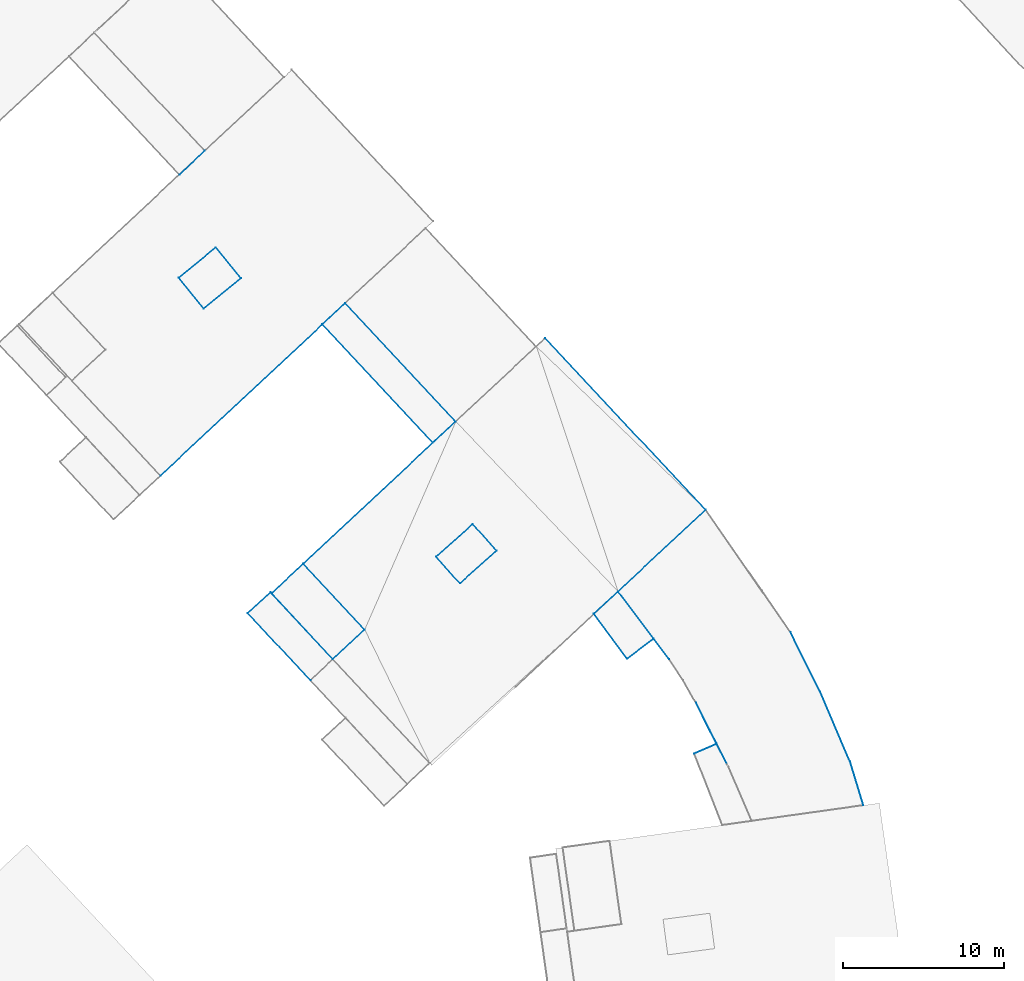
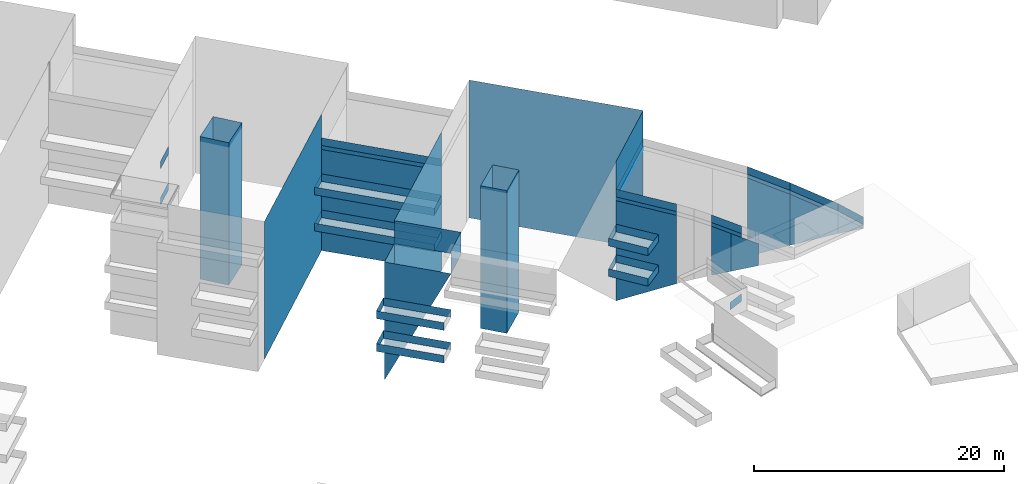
# Not in any storey, part 19 of 136: 93 walls.
"""IFC4 building model written with IfcOpenShell, lengths in metres."""

import ifcopenshell
import ifcopenshell.guid

model = None  # the IFC model being written
_history = None  # IfcOwnerHistory: only IFC2X3 demands one
_inside = {}  # id of a spatial element -> (the spatial element, [elements in it])
_under = {}  # id of a project, library or spatial element -> (it, [spatial elements below it])
_declared = {}  # id of a project -> (the project, [libraries it declares])
_typed = {}  # id of a type object -> (the type object, [elements of that type])
_made_of = {}  # id of a material, layer set ... -> (it, [elements and type objects made of it])


def new_model(schema):
    """Start an empty IFC model of exactly this schema.

    Asked for "IFC4X3", IfcOpenShell would pick the latest addendum, in which some entities
    have other attributes; the version numbers below select the first issue.
    IFC2X3 requires an IfcOwnerHistory on every rooted entity: one is made here for all.
    """
    global model, _history
    if schema == "IFC4X3":
        model = ifcopenshell.file(schema_version=(4, 3, 0, 0))
    else:
        model = ifcopenshell.file(schema=schema)
    _inside.clear()
    _under.clear()
    _declared.clear()
    _typed.clear()
    _made_of.clear()
    _history = None
    if model.schema == "IFC2X3":
        org = make("IfcOrganization", Name="unknown")
        user = make(
            "IfcPersonAndOrganization",
            ThePerson=make("IfcPerson", FamilyName="unknown"),
            TheOrganization=org,
        )
        app = make(
            "IfcApplication",
            ApplicationDeveloper=org,
            Version="unknown",
            ApplicationFullName="unknown",
            ApplicationIdentifier="unknown",
        )
        _history = make(
            "IfcOwnerHistory",
            OwningUser=user,
            OwningApplication=app,
            ChangeAction="ADDED",
            CreationDate=0,
        )
    return model


def make(cls, **values):
    """One entity of the class cls with the attributes given. An attribute that is None is left unset."""
    return model.create_entity(
        cls, **{name: value for name, value in values.items() if value is not None}
    )


def entity(cls, *values):
    """Any entity or typed value of the class cls, its attributes in the order of the schema. None: left unset."""
    e = model.create_entity(cls)
    for i, value in enumerate(values):
        if value is not None:
            e[i] = value
    return e


def rooted(cls, **values):
    """An entity with a GlobalId (a new one), such as an element, a storey or a relation."""
    return make(cls, GlobalId=ifcopenshell.guid.new(), OwnerHistory=_history, **values)


def si_unit(unit_type, name, prefix=None):
    """IfcSIUnit, for example si_unit("LENGTHUNIT", "METRE", prefix="MILLI")."""
    return make("IfcSIUnit", UnitType=unit_type, Prefix=prefix, Name=name)


def converted_unit(unit_type, name, factor, base, dimensions=None, offset=None):
    """IfcConversionBasedUnit, such as the inch: factor (a typed value) times the base unit."""
    return make(
        "IfcConversionBasedUnit"
        if offset is None
        else "IfcConversionBasedUnitWithOffset",
        ConversionOffset=offset,
        Dimensions=None
        if dimensions is None
        else entity("IfcDimensionalExponents", *dimensions),
        UnitType=unit_type,
        Name=name,
        ConversionFactor=make(
            "IfcMeasureWithUnit", ValueComponent=factor, UnitComponent=base
        ),
    )


def assignment(units):
    """IfcUnitAssignment: the units of a project."""
    return None if units is None else make("IfcUnitAssignment", Units=units)


def point(xyz):
    """IfcCartesianPoint."""
    return None if xyz is None else make("IfcCartesianPoint", Coordinates=xyz)


def direction(xyz):
    """IfcDirection."""
    return None if xyz is None else make("IfcDirection", DirectionRatios=xyz)


def frame(location, z_axis=None, x_axis=None):
    """IfcAxis2Placement3D, a coordinate frame: its origin and axes. An axis left out is left unset."""
    return make(
        "IfcAxis2Placement3D",
        Location=point(location),
        Axis=direction(z_axis),
        RefDirection=direction(x_axis),
    )


def origin():
    """The frame at (0, 0, 0) with its axes left unset."""
    return frame((0.0, 0.0, 0.0))


def place(relative_to, where):
    """IfcLocalPlacement: puts the frame where relative to a parent placement (None: the world)."""
    return make(
        "IfcLocalPlacement", PlacementRelTo=relative_to, RelativePlacement=where
    )


def context(
    kind, dimensions, precision=None, world=None, true_north=None, identifier=None
):
    """IfcGeometricRepresentationContext, for example the 3D "Model" context."""
    return make(
        "IfcGeometricRepresentationContext",
        ContextIdentifier=identifier,
        ContextType=kind,
        CoordinateSpaceDimension=dimensions,
        Precision=precision,
        WorldCoordinateSystem=world,
        TrueNorth=true_north,
    )


def subcontext(parent, identifier, kind, view, scale=None):
    """IfcGeometricRepresentationSubContext, for example "Body" below "Model"."""
    return make(
        "IfcGeometricRepresentationSubContext",
        ContextIdentifier=identifier,
        ContextType=kind,
        ParentContext=parent,
        TargetScale=scale,
        TargetView=view,
    )


def project(units=None, contexts=None):
    """IfcProject with its units and contexts."""
    return rooted(
        "IfcProject",
        Name="project",
        RepresentationContexts=contexts,
        UnitsInContext=assignment(units),
    )


def spatial(cls, under=None, at=None, **own):
    """A site, building, storey or space (cls), placed at a placement, below another one or the project."""
    s = rooted(cls, ObjectPlacement=at, **own)
    if under is not None:
        _under.setdefault(under.id(), (under, []))[1].append(s)
    return s


def faces_of(points, faces, orient=None, outer=None):
    """IfcFace entities. A face is a list of loops; a loop is a list of indices into points, from 0.

    orient and outer hold one flag for each loop. By default every Orientation is true, the
    first loop of a face is its IfcFaceOuterBound and the others are IfcFaceBound.
    """
    made = []
    for i, loops in enumerate(faces):
        bounds = []
        for j, loop in enumerate(loops):
            is_outer = j == 0 if outer is None else outer[i][j]
            bounds.append(
                make(
                    "IfcFaceOuterBound" if is_outer else "IfcFaceBound",
                    Bound=make("IfcPolyLoop", Polygon=[points[k] for k in loop]),
                    Orientation=True if orient is None else orient[i][j],
                )
            )
        made.append(make("IfcFace", Bounds=bounds))
    return made


def face_set(faces, orient=None, outer=None):
    """The faces of one IfcConnectedFaceSet. surface_model builds it on its shared points."""
    return ("IfcConnectedFaceSet", faces, orient, outer)


def surface_model(cls, points, shells):
    """IfcFaceBasedSurfaceModel or IfcShellBasedSurfaceModel (cls): surfaces that need not close."""
    shared = [point(p) for p in points]
    made = [make(c, CfsFaces=faces_of(shared, fs, o, b)) for c, fs, o, b in shells]
    if cls == "IfcFaceBasedSurfaceModel":
        return make(cls, FbsmFaces=made)
    return make(cls, SbsmBoundary=made)


def shape(context_of_items, identifier, shape_type, items):
    """IfcShapeRepresentation: the items that make up one representation, for example the "Body"."""
    return make(
        "IfcShapeRepresentation",
        ContextOfItems=context_of_items,
        RepresentationIdentifier=identifier,
        RepresentationType=shape_type,
        Items=items,
    )


def made_of(thing, what):
    """Note that an element or type object is made of a material, layer set ...; save() writes the relation."""
    if what is not None:
        _made_of.setdefault(what.id(), (what, []))[1].append(thing)
    return thing


def element(
    cls,
    number,
    at=None,
    inside=None,
    cuts=None,
    type_object=None,
    material=None,
    context=None,
    identifier="Body",
    shape_type=None,
    held_by="IfcProductDefinitionShape",
    body=None,
    shapes=None,
    **own,
):
    """One element of the class cls, such as IfcWall. Its Tag is "e" and its number.

    at: its placement. inside: the storey or other place that contains it. cuts: it is an
    opening in that element (IfcRelVoidsElement). A single representation is given by context,
    identifier, shape_type and body (its items); several are given by shapes. held_by: the class
    of the entity that holds the representations. save() writes the other relations.
    """
    e = rooted(cls, Tag="e%d" % number, ObjectPlacement=at, **own)
    if body is not None:
        shapes = [shape(context, identifier, shape_type, body)]
    if shapes is not None:
        e.Representation = make(held_by, Representations=shapes)
    if inside is not None:
        _inside.setdefault(inside.id(), (inside, []))[1].append(e)
    if cuts is not None:
        rooted(
            "IfcRelVoidsElement", RelatingBuildingElement=cuts, RelatedOpeningElement=e
        )
    if type_object is not None:
        _typed.setdefault(type_object.id(), (type_object, []))[1].append(e)
    return made_of(e, material)


def aggregate(whole, parts):
    """IfcRelAggregates: a whole, such as a stair, and the parts it consists of."""
    return rooted("IfcRelAggregates", RelatingObject=whole, RelatedObjects=parts)


def save(model, path):
    """Write the relations noted so far, then the file.

    IfcRelAggregates (storeys below a building ...), IfcRelContainedInSpatialStructure (elements
    in a storey), IfcRelDefinesByType, IfcRelAssociatesMaterial and IfcRelDeclares: one each for
    every whole, place, type object, material and project.
    """
    for whole, parts in _under.values():
        aggregate(whole, parts)
    for where, things in _inside.values():
        rooted(
            "IfcRelContainedInSpatialStructure",
            RelatedElements=things,
            RelatingStructure=where,
        )
    for kind, things in _typed.values():
        rooted("IfcRelDefinesByType", RelatedObjects=things, RelatingType=kind)
    for what, things in _made_of.values():
        rooted("IfcRelAssociatesMaterial", RelatedObjects=things, RelatingMaterial=what)
    for by, libraries in _declared.values():
        rooted("IfcRelDeclares", RelatingContext=by, RelatedDefinitions=libraries)
    model.write(path)


model = new_model("IFC4")

# Units and contexts
model_context = context("Model", 3, precision=1e-05, world=origin())
body_context = subcontext(model_context, "Body", "Model", "MODEL_VIEW")
ifc_project = project(units=[converted_unit("PLANEANGLEUNIT", "DEGREE", entity("IfcRatioMeasure", 0.0174532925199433), si_unit("PLANEANGLEUNIT", "RADIAN"), dimensions=[0, 0, 0, 0, 0, 0, 0]), si_unit("AREAUNIT", "SQUARE_METRE"), si_unit("LENGTHUNIT", "METRE")], contexts=[model_context])

# Site, building
site_placement = place(None, origin())
site = spatial("IfcSite", under=ifc_project, at=site_placement, Name="_site")
building_1_placement = place(site_placement, origin())
building_1 = spatial("IfcBuilding", under=site, at=building_1_placement, Name="_building")

# Walls
wall_1_placement = place(building_1_placement, origin())
element("IfcWall", 1, at=wall_1_placement, inside=building_1, Name="Wall", PredefinedType="NOTDEFINED", context=body_context, shape_type="SurfaceModel", body=[
    surface_model("IfcFaceBasedSurfaceModel", [(138.73, -36.479, 45.37), (140.13, -35.18, 45.37), (140.13, -35.18, 46.12), (138.73, -36.479, 46.12)], [face_set([[[0, 1, 2, 3]]])]),
])
wall_2_placement = place(building_1_placement, origin())
element("IfcWall", 2, at=wall_2_placement, inside=building_1, Name="Wall", PredefinedType="NOTDEFINED", context=body_context, shape_type="SurfaceModel", body=[
    surface_model("IfcFaceBasedSurfaceModel", [(142.61, -40.63, 45.37), (138.73, -36.479, 45.37), (138.73, -36.479, 46.12), (142.61, -40.63, 46.12)], [face_set([[[0, 1, 2, 3]]])]),
])
wall_3_placement = place(building_1_placement, origin())
element("IfcWall", 3, at=wall_3_placement, inside=building_1, Name="Wall", PredefinedType="NOTDEFINED", context=body_context, shape_type="SurfaceModel", body=[
    surface_model("IfcFaceBasedSurfaceModel", [(138.73, -36.479, 45.37), (140.13, -35.18, 45.37), (140.13, -35.18, 46.12), (138.73, -36.479, 46.12)], [face_set([[[0, 1, 2, 3]]])]),
])
wall_4_placement = place(building_1_placement, origin())
element("IfcWall", 4, at=wall_4_placement, inside=building_1, Name="Wall", PredefinedType="NOTDEFINED", context=body_context, shape_type="SurfaceModel", body=[
    surface_model("IfcFaceBasedSurfaceModel", [(142.61, -40.63, 45.37), (138.73, -36.479, 45.37), (138.73, -36.479, 46.12), (142.61, -40.63, 46.12)], [face_set([[[0, 1, 2, 3]]])]),
])
for number, where, name in (
    (5, (0.0, 0.0, 0.0), "Wall"),
    (6, (0.0, 0.0, 0.0), "Wall"),
):
    element("IfcWall", number, at=place(building_1_placement, frame(where)), inside=building_1, Name=name, PredefinedType="NOTDEFINED", context=body_context, shape_type="SurfaceModel", body=[
        surface_model("IfcFaceBasedSurfaceModel", [(150.2, -25.91, 44.99), (143.35, -18.57, 44.99), (143.35, -18.57, 45.74), (150.2, -25.91, 45.74)], [face_set([[[0, 1, 2, 3]]])]),
    ])
wall_5_placement = place(building_1_placement, origin())
element("IfcWall", 7, at=wall_5_placement, inside=building_1, Name="Wall", PredefinedType="NOTDEFINED", context=body_context, shape_type="SurfaceModel", body=[
    surface_model("IfcFaceBasedSurfaceModel", [(151.62, -24.59, 44.99), (150.2, -25.91, 44.99), (150.2, -25.91, 45.74), (151.62, -24.59, 45.74)], [face_set([[[0, 1, 2, 3]]])]),
])
wall_6_placement = place(building_1_placement, origin())
element("IfcWall", 8, at=wall_6_placement, inside=building_1, Name="Wall", PredefinedType="NOTDEFINED", context=body_context, shape_type="SurfaceModel", body=[
    surface_model("IfcFaceBasedSurfaceModel", [(144.77, -17.25, 44.99), (151.62, -24.59, 44.99), (151.62, -24.59, 45.74), (144.77, -17.25, 45.74)], [face_set([[[0, 1, 2, 3]]])]),
])
wall_7_placement = place(building_1_placement, origin())
element("IfcWall", 9, at=wall_7_placement, inside=building_1, Name="Wall", PredefinedType="NOTDEFINED", context=body_context, shape_type="SurfaceModel", body=[
    surface_model("IfcFaceBasedSurfaceModel", [(151.62, -24.59, 48.51), (144.77, -17.25, 48.51), (144.77, -17.25, 38.246), (151.62, -24.59, 38.308)], [face_set([[[0, 1, 2, 3]]])]),
])
wall_8_placement = place(building_1_placement, origin())
element("IfcWall", 10, at=wall_8_placement, inside=building_1, Name="Wall", PredefinedType="NOTDEFINED", context=body_context, shape_type="SurfaceModel", body=[
    surface_model("IfcFaceBasedSurfaceModel", [(164.85, -39.33, 48.41), (161.68, -35.13, 48.41), (161.68, -35.13, 48.04), (164.85, -39.33, 48.04)], [face_set([[[0, 1, 2, 3]]])]),
])
for number, where, name in (
    (11, (0.0, 0.0, 0.0), "Wall"),
    (12, (0.0, 0.0, 0.0), "Wall"),
):
    element("IfcWall", number, at=place(building_1_placement, frame(where)), inside=building_1, Name=name, PredefinedType="NOTDEFINED", context=body_context, shape_type="SurfaceModel", body=[
        surface_model("IfcFaceBasedSurfaceModel", [(151.62, -24.59, 48.51), (144.77, -17.25, 48.51), (144.77, -17.25, 49.26), (151.62, -24.59, 49.26)], [face_set([[[0, 1, 2, 3]]])]),
    ])
for number, where, name in (
    (13, (0.0, 0.0, 0.0), "Wall"),
    (14, (0.0, 0.0, 0.0), "Wall"),
):
    element("IfcWall", number, at=place(building_1_placement, frame(where)), inside=building_1, Name=name, PredefinedType="NOTDEFINED", context=body_context, shape_type="SurfaceModel", body=[
        surface_model("IfcFaceBasedSurfaceModel", [(150.2, -25.91, 41.46), (143.35, -18.57, 41.46), (143.35, -18.57, 42.21), (150.2, -25.91, 42.21)], [face_set([[[0, 1, 2, 3]]])]),
    ])
wall_9_placement = place(building_1_placement, origin())
element("IfcWall", 15, at=wall_9_placement, inside=building_1, Name="Wall", PredefinedType="NOTDEFINED", context=body_context, shape_type="SurfaceModel", body=[
    surface_model("IfcFaceBasedSurfaceModel", [(151.62, -24.59, 41.46), (150.2, -25.91, 41.46), (150.2, -25.91, 42.21), (151.62, -24.59, 42.21)], [face_set([[[0, 1, 2, 3]]])]),
])
wall_10_placement = place(building_1_placement, origin())
element("IfcWall", 16, at=wall_10_placement, inside=building_1, Name="Wall", PredefinedType="NOTDEFINED", context=body_context, shape_type="SurfaceModel", body=[
    surface_model("IfcFaceBasedSurfaceModel", [(144.77, -17.25, 41.46), (151.62, -24.59, 41.46), (151.62, -24.59, 42.21), (144.77, -17.25, 42.21)], [face_set([[[0, 1, 2, 3]]])]),
])
wall_11_placement = place(building_1_placement, origin())
element("IfcWall", 17, at=wall_11_placement, inside=building_1, Name="Wall", PredefinedType="NOTDEFINED", context=body_context, shape_type="SurfaceModel", body=[
    surface_model("IfcFaceBasedSurfaceModel", [(151.62, -24.59, 48.12), (144.77, -17.25, 48.12), (144.77, -17.25, 38.246), (151.62, -24.59, 38.308)], [face_set([[[0, 1, 2, 3]]])]),
])
wall_12_placement = place(building_1_placement, origin())
element("IfcWall", 18, at=wall_12_placement, inside=building_1, Name="Wall", PredefinedType="NOTDEFINED", context=body_context, shape_type="SurfaceModel", body=[
    surface_model("IfcFaceBasedSurfaceModel", [(164.85, -39.33, 48.04), (161.68, -35.13, 48.04), (161.68, -35.13, 38.255), (164.85, -39.33, 41.367)], [face_set([[[0, 1, 2, 3]]])]),
])
wall_13_placement = place(building_1_placement, origin())
element("IfcWall", 19, at=wall_13_placement, inside=building_1, Name="Wall", PredefinedType="NOTDEFINED", context=body_context, shape_type="SurfaceModel", body=[
    surface_model("IfcFaceBasedSurfaceModel", [(167.36, -43.72, 48.04), (166.51, -42.04, 48.04), (166.51, -42.04, 43.247), (167.36, -43.72, 44.361)], [face_set([[[0, 1, 2, 3]]])]),
])
wall_14_placement = place(building_1_placement, origin())
element("IfcWall", 20, at=wall_14_placement, inside=building_1, Name="Wall", PredefinedType="NOTDEFINED", context=body_context, shape_type="SurfaceModel", body=[
    surface_model("IfcFaceBasedSurfaceModel", [(168.54, -46.04, 48.04), (167.36, -43.72, 48.04), (167.36, -43.72, 44.361), (168.54, -46.04, 45.9)], [face_set([[[0, 1, 2, 3]]])]),
])
wall_15_placement = place(building_1_placement, origin())
element("IfcWall", 21, at=wall_15_placement, inside=building_1, Name="Wall", PredefinedType="NOTDEFINED", context=body_context, shape_type="SurfaceModel", body=[
    surface_model("IfcFaceBasedSurfaceModel", [(144.77, -17.25, 51.59), (133.31, -27.95, 51.59), (133.31, -27.95, 38.092), (144.77, -17.25, 38.246)], [face_set([[[0, 1, 2, 3]]])]),
])
wall_16_placement = place(building_1_placement, origin())
element("IfcWall", 22, at=wall_16_placement, inside=building_1, Name="Wall", PredefinedType="NOTDEFINED", context=body_context, shape_type="SurfaceModel", body=[
    surface_model("IfcFaceBasedSurfaceModel", [(140.2, -35.25, 49.64), (142.16, -33.42, 49.64), (142.16, -33.42, 38.14), (140.2, -35.25, 38.113)], [face_set([[[0, 1, 2, 3]]])]),
])
wall_17_placement = place(building_1_placement, origin())
element("IfcWall", 23, at=wall_17_placement, inside=building_1, Name="Wall", PredefinedType="NOTDEFINED", context=body_context, shape_type="SurfaceModel", body=[
    surface_model("IfcFaceBasedSurfaceModel", [(157.17, -19.42, 51.89), (167.11, -30.07, 51.89), (167.11, -30.07, 38.37), (157.17, -19.42, 38.41)], [face_set([[[0, 1, 2, 3]]])]),
])
wall_18_placement = place(building_1_placement, origin())
element("IfcWall", 24, at=wall_18_placement, inside=building_1, Name="Wall", PredefinedType="NOTDEFINED", context=body_context, shape_type="SurfaceModel", body=[
    surface_model("IfcFaceBasedSurfaceModel", [(142.16, -33.42, 51.89), (151.62, -24.59, 51.89), (151.62, -24.59, 38.308), (142.16, -33.42, 38.14)], [face_set([[[0, 1, 2, 3]]])]),
])
wall_19_placement = place(building_1_placement, origin())
element("IfcWall", 25, at=wall_19_placement, inside=building_1, Name="Wall", PredefinedType="NOTDEFINED", context=body_context, shape_type="SurfaceModel", body=[
    surface_model("IfcFaceBasedSurfaceModel", [(164.85, -39.33, 48.41), (161.68, -35.13, 48.41), (161.68, -35.13, 49.16), (164.85, -39.33, 49.16)], [face_set([[[0, 1, 2, 3]]])]),
])
wall_20_placement = place(building_1_placement, origin())
element("IfcWall", 26, at=wall_20_placement, inside=building_1, Name="Wall", PredefinedType="NOTDEFINED", context=body_context, shape_type="SurfaceModel", body=[
    surface_model("IfcFaceBasedSurfaceModel", [(167.8, -44.58, 48.41), (166.51, -42.04, 48.41), (166.51, -42.04, 49.16), (167.8, -44.58, 49.16)], [face_set([[[0, 1, 2, 3]]])]),
])
wall_21_placement = place(building_1_placement, origin())
element("IfcWall", 27, at=wall_21_placement, inside=building_1, Name="Wall", PredefinedType="NOTDEFINED", context=body_context, shape_type="SurfaceModel", body=[
    surface_model("IfcFaceBasedSurfaceModel", [(164.85, -39.33, 48.41), (161.68, -35.13, 48.41), (161.68, -35.13, 49.16), (164.85, -39.33, 49.16)], [face_set([[[0, 1, 2, 3]]])]),
])
wall_22_placement = place(building_1_placement, origin())
element("IfcWall", 28, at=wall_22_placement, inside=building_1, Name="Wall", PredefinedType="NOTDEFINED", context=body_context, shape_type="SurfaceModel", body=[
    surface_model("IfcFaceBasedSurfaceModel", [(162.24, -39.3, 44.99), (160.18, -36.52, 44.99), (160.18, -36.52, 45.74), (162.24, -39.3, 45.74)], [face_set([[[0, 1, 2, 3]]])]),
])
wall_23_placement = place(building_1_placement, origin())
element("IfcWall", 29, at=wall_23_placement, inside=building_1, Name="Wall", PredefinedType="NOTDEFINED", context=body_context, shape_type="SurfaceModel", body=[
    surface_model("IfcFaceBasedSurfaceModel", [(163.89, -38.06, 44.99), (162.24, -39.3, 44.99), (162.24, -39.3, 45.74), (163.89, -38.06, 45.74)], [face_set([[[0, 1, 2, 3]]])]),
])
wall_24_placement = place(building_1_placement, origin())
element("IfcWall", 30, at=wall_24_placement, inside=building_1, Name="Wall", PredefinedType="NOTDEFINED", context=body_context, shape_type="SurfaceModel", body=[
    surface_model("IfcFaceBasedSurfaceModel", [(162.24, -39.3, 44.99), (160.18, -36.52, 44.99), (160.18, -36.52, 45.74), (162.24, -39.3, 45.74)], [face_set([[[0, 1, 2, 3]]])]),
])
wall_25_placement = place(building_1_placement, origin())
element("IfcWall", 31, at=wall_25_placement, inside=building_1, Name="Wall", PredefinedType="NOTDEFINED", context=body_context, shape_type="SurfaceModel", body=[
    surface_model("IfcFaceBasedSurfaceModel", [(163.89, -38.06, 44.99), (162.24, -39.3, 44.99), (162.24, -39.3, 45.74), (163.89, -38.06, 45.74)], [face_set([[[0, 1, 2, 3]]])]),
])
wall_26_placement = place(building_1_placement, origin())
element("IfcWall", 32, at=wall_26_placement, inside=building_1, Name="Wall", PredefinedType="NOTDEFINED", context=body_context, shape_type="SurfaceModel", body=[
    surface_model("IfcFaceBasedSurfaceModel", [(161.68, -35.13, 44.99), (163.89, -38.06, 44.99), (163.89, -38.06, 45.74), (161.68, -35.13, 45.74)], [face_set([[[0, 1, 2, 3]]])]),
])
wall_27_placement = place(building_1_placement, origin())
element("IfcWall", 33, at=wall_27_placement, inside=building_1, Name="Wall", PredefinedType="NOTDEFINED", context=body_context, shape_type="SurfaceModel", body=[
    surface_model("IfcFaceBasedSurfaceModel", [(138.73, -36.479, 42.17), (140.13, -35.18, 42.17), (140.13, -35.18, 42.92), (138.73, -36.479, 42.92)], [face_set([[[0, 1, 2, 3]]])]),
])
wall_28_placement = place(building_1_placement, origin())
element("IfcWall", 34, at=wall_28_placement, inside=building_1, Name="Wall", PredefinedType="NOTDEFINED", context=body_context, shape_type="SurfaceModel", body=[
    surface_model("IfcFaceBasedSurfaceModel", [(142.61, -40.63, 42.17), (138.73, -36.479, 42.17), (138.73, -36.479, 42.92), (142.61, -40.63, 42.92)], [face_set([[[0, 1, 2, 3]]])]),
])
wall_29_placement = place(building_1_placement, origin())
element("IfcWall", 35, at=wall_29_placement, inside=building_1, Name="Wall", PredefinedType="NOTDEFINED", context=body_context, shape_type="SurfaceModel", body=[
    surface_model("IfcFaceBasedSurfaceModel", [(138.73, -36.479, 42.17), (140.13, -35.18, 42.17), (140.13, -35.18, 42.92), (138.73, -36.479, 42.92)], [face_set([[[0, 1, 2, 3]]])]),
])
wall_30_placement = place(building_1_placement, origin())
element("IfcWall", 36, at=wall_30_placement, inside=building_1, Name="Wall", PredefinedType="NOTDEFINED", context=body_context, shape_type="SurfaceModel", body=[
    surface_model("IfcFaceBasedSurfaceModel", [(142.61, -40.63, 42.17), (138.73, -36.479, 42.17), (138.73, -36.479, 42.92), (142.61, -40.63, 42.92)], [face_set([[[0, 1, 2, 3]]])]),
])
for number, where, name in (
    (37, (0.0, 0.0, 0.0), "Wall"),
    (38, (0.0, 0.0, 0.0), "Wall"),
):
    element("IfcWall", number, at=place(building_1_placement, frame(where)), inside=building_1, Name=name, PredefinedType="NOTDEFINED", context=body_context, shape_type="SurfaceModel", body=[
        surface_model("IfcFaceBasedSurfaceModel", [(166.41, -45.18, 41.78), (167.8, -44.58, 41.78), (167.8, -44.58, 42.53), (166.41, -45.18, 42.53)], [face_set([[[0, 1, 2, 3]]])]),
    ])
wall_31_placement = place(building_1_placement, origin())
element("IfcWall", 39, at=wall_31_placement, inside=building_1, Name="Wall", PredefinedType="NOTDEFINED", context=body_context, shape_type="SurfaceModel", body=[
    surface_model("IfcFaceBasedSurfaceModel", [(162.24, -39.3, 42.01), (160.18, -36.52, 42.01), (160.18, -36.52, 42.76), (162.24, -39.3, 42.76)], [face_set([[[0, 1, 2, 3]]])]),
])
wall_32_placement = place(building_1_placement, origin())
element("IfcWall", 40, at=wall_32_placement, inside=building_1, Name="Wall", PredefinedType="NOTDEFINED", context=body_context, shape_type="SurfaceModel", body=[
    surface_model("IfcFaceBasedSurfaceModel", [(163.89, -38.06, 42.01), (162.24, -39.3, 42.01), (162.24, -39.3, 42.76), (163.89, -38.06, 42.76)], [face_set([[[0, 1, 2, 3]]])]),
])
wall_33_placement = place(building_1_placement, origin())
element("IfcWall", 41, at=wall_33_placement, inside=building_1, Name="Wall", PredefinedType="NOTDEFINED", context=body_context, shape_type="SurfaceModel", body=[
    surface_model("IfcFaceBasedSurfaceModel", [(162.24, -39.3, 42.01), (160.18, -36.52, 42.01), (160.18, -36.52, 42.76), (162.24, -39.3, 42.76)], [face_set([[[0, 1, 2, 3]]])]),
])
wall_34_placement = place(building_1_placement, origin())
element("IfcWall", 42, at=wall_34_placement, inside=building_1, Name="Wall", PredefinedType="NOTDEFINED", context=body_context, shape_type="SurfaceModel", body=[
    surface_model("IfcFaceBasedSurfaceModel", [(163.89, -38.06, 42.01), (162.24, -39.3, 42.01), (162.24, -39.3, 42.76), (163.89, -38.06, 42.76)], [face_set([[[0, 1, 2, 3]]])]),
])
wall_35_placement = place(building_1_placement, origin())
element("IfcWall", 43, at=wall_35_placement, inside=building_1, Name="Wall", PredefinedType="NOTDEFINED", context=body_context, shape_type="SurfaceModel", body=[
    surface_model("IfcFaceBasedSurfaceModel", [(161.68, -35.13, 42.01), (163.89, -38.06, 42.01), (163.89, -38.06, 42.76), (161.68, -35.13, 42.76)], [face_set([[[0, 1, 2, 3]]])]),
])

# Building
building_2_placement = place(site_placement, origin())
building_2 = spatial("IfcBuilding", under=site, at=building_2_placement, Name="_building")

# Walls
wall_36_placement = place(building_2_placement, origin())
element("IfcWall", 44, at=wall_36_placement, inside=building_2, Name="Wall", PredefinedType="NOTDEFINED", context=body_context, shape_type="SurfaceModel", body=[
    surface_model("IfcFaceBasedSurfaceModel", [(151.62, -24.59, 44.99), (150.2, -25.91, 44.99), (150.2, -25.91, 45.74), (151.62, -24.59, 45.74)], [face_set([[[0, 1, 2, 3]]])]),
])
wall_37_placement = place(building_2_placement, origin())
element("IfcWall", 45, at=wall_37_placement, inside=building_2, Name="Wall", PredefinedType="NOTDEFINED", context=body_context, shape_type="SurfaceModel", body=[
    surface_model("IfcFaceBasedSurfaceModel", [(150.4, -32.979, 52.15), (152.68, -30.95, 52.15), (152.68, -30.95, 38.244), (150.4, -32.979, 38.204)], [face_set([[[0, 1, 2, 3]]])]),
])
wall_38_placement = place(building_2_placement, origin())
element("IfcWall", 46, at=wall_38_placement, inside=building_2, Name="Wall", PredefinedType="NOTDEFINED", context=body_context, shape_type="SurfaceModel", body=[
    surface_model("IfcFaceBasedSurfaceModel", [(176.07, -45.7, 48.41), (176.89, -48.39, 48.41), (176.89, -48.39, 48.04), (176.07, -45.7, 48.04)], [face_set([[[0, 1, 2, 3]]])]),
])
wall_39_placement = place(building_2_placement, origin())
element("IfcWall", 47, at=wall_39_placement, inside=building_2, Name="Wall", PredefinedType="NOTDEFINED", context=body_context, shape_type="SurfaceModel", body=[
    surface_model("IfcFaceBasedSurfaceModel", [(172.37, -37.66, 48.41), (174.2, -41.33, 48.41), (174.2, -41.33, 48.04), (172.37, -37.66, 48.04)], [face_set([[[0, 1, 2, 3]]])]),
])
wall_40_placement = place(building_2_placement, origin())
element("IfcWall", 48, at=wall_40_placement, inside=building_2, Name="Wall", PredefinedType="NOTDEFINED", context=body_context, shape_type="SurfaceModel", body=[
    surface_model("IfcFaceBasedSurfaceModel", [(161.68, -35.13, 48.41), (167.11, -30.07, 48.41), (167.11, -30.07, 48.04), (161.68, -35.13, 48.04)], [face_set([[[0, 1, 2, 3]]])]),
])
wall_41_placement = place(building_2_placement, origin())
element("IfcWall", 49, at=wall_41_placement, inside=building_2, Name="Wall", PredefinedType="NOTDEFINED", context=body_context, shape_type="SurfaceModel", body=[
    surface_model("IfcFaceBasedSurfaceModel", [(167.8, -44.58, 48.41), (166.51, -42.04, 48.41), (166.51, -42.04, 48.04), (167.8, -44.58, 48.04)], [face_set([[[0, 1, 2, 3]]])]),
])
wall_42_placement = place(building_2_placement, origin())
element("IfcWall", 50, at=wall_42_placement, inside=building_2, Name="Wall", PredefinedType="NOTDEFINED", context=body_context, shape_type="SurfaceModel", body=[
    surface_model("IfcFaceBasedSurfaceModel", [(151.88, -34.63, 52.15), (150.4, -32.979, 52.15), (150.4, -32.979, 38.204), (151.88, -34.63, 38.194)], [face_set([[[0, 1, 2, 3]]])]),
])
wall_43_placement = place(building_2_placement, origin())
element("IfcWall", 51, at=wall_43_placement, inside=building_2, Name="Wall", PredefinedType="NOTDEFINED", context=body_context, shape_type="SurfaceModel", body=[
    surface_model("IfcFaceBasedSurfaceModel", [(154.15, -32.6, 52.15), (151.88, -34.63, 52.15), (151.88, -34.63, 38.194), (154.15, -32.6, 38.233)], [face_set([[[0, 1, 2, 3]]])]),
])
wall_44_placement = place(building_2_placement, origin())
element("IfcWall", 52, at=wall_44_placement, inside=building_2, Name="Wall", PredefinedType="NOTDEFINED", context=body_context, shape_type="SurfaceModel", body=[
    surface_model("IfcFaceBasedSurfaceModel", [(152.68, -30.95, 52.15), (154.15, -32.6, 52.15), (154.15, -32.6, 38.233), (152.68, -30.95, 38.244)], [face_set([[[0, 1, 2, 3]]])]),
])
wall_45_placement = place(building_2_placement, origin())
element("IfcWall", 53, at=wall_45_placement, inside=building_2, Name="Wall", PredefinedType="NOTDEFINED", context=body_context, shape_type="SurfaceModel", body=[
    surface_model("IfcFaceBasedSurfaceModel", [(151.62, -24.59, 41.46), (150.2, -25.91, 41.46), (150.2, -25.91, 42.21), (151.62, -24.59, 42.21)], [face_set([[[0, 1, 2, 3]]])]),
])
wall_46_placement = place(building_2_placement, origin())
element("IfcWall", 54, at=wall_46_placement, inside=building_2, Name="Wall", PredefinedType="NOTDEFINED", context=body_context, shape_type="SurfaceModel", body=[
    surface_model("IfcFaceBasedSurfaceModel", [(176.07, -45.7, 48.04), (176.89, -48.39, 48.04), (176.07, -45.7, 46.19)], [face_set([[[0, 1, 2]]])]),
])
wall_47_placement = place(building_2_placement, origin())
element("IfcWall", 55, at=wall_47_placement, inside=building_2, Name="Wall", PredefinedType="NOTDEFINED", context=body_context, shape_type="SurfaceModel", body=[
    surface_model("IfcFaceBasedSurfaceModel", [(174.2, -41.33, 48.04), (176.07, -45.7, 48.04), (176.07, -45.7, 46.19), (174.2, -41.33, 43.062)], [face_set([[[0, 1, 2, 3]]])]),
])
wall_48_placement = place(building_2_placement, origin())
element("IfcWall", 56, at=wall_48_placement, inside=building_2, Name="Wall", PredefinedType="NOTDEFINED", context=body_context, shape_type="SurfaceModel", body=[
    surface_model("IfcFaceBasedSurfaceModel", [(172.37, -37.66, 48.04), (174.2, -41.33, 48.04), (174.2, -41.33, 43.062), (172.37, -37.66, 40.363)], [face_set([[[0, 1, 2, 3]]])]),
])
wall_49_placement = place(building_2_placement, origin())
element("IfcWall", 57, at=wall_49_placement, inside=building_2, Name="Wall", PredefinedType="NOTDEFINED", context=body_context, shape_type="SurfaceModel", body=[
    surface_model("IfcFaceBasedSurfaceModel", [(174.2, -41.33, 48.41), (176.07, -45.7, 48.41), (176.07, -45.7, 48.04), (174.2, -41.33, 48.04)], [face_set([[[0, 1, 2, 3]]])]),
])
wall_50_placement = place(building_2_placement, origin())
element("IfcWall", 58, at=wall_50_placement, inside=building_2, Name="Wall", PredefinedType="NOTDEFINED", context=body_context, shape_type="SurfaceModel", body=[
    surface_model("IfcFaceBasedSurfaceModel", [(145.97, -37.49, 51.89), (142.16, -33.42, 51.89), (142.16, -33.42, 49.64), (145.97, -37.49, 49.64)], [face_set([[[0, 1, 2, 3]]])]),
])
wall_51_placement = place(building_2_placement, origin())
element("IfcWall", 59, at=wall_51_placement, inside=building_2, Name="Wall", PredefinedType="NOTDEFINED", context=body_context, shape_type="SurfaceModel", body=[
    surface_model("IfcFaceBasedSurfaceModel", [(144.0, -39.33, 51.89), (145.97, -37.49, 51.89), (145.97, -37.49, 49.64), (144.0, -39.33, 49.64)], [face_set([[[0, 1, 2, 3]]])]),
])
wall_52_placement = place(building_2_placement, origin())
element("IfcWall", 60, at=wall_52_placement, inside=building_2, Name="Wall", PredefinedType="NOTDEFINED", context=body_context, shape_type="SurfaceModel", body=[
    surface_model("IfcFaceBasedSurfaceModel", [(167.11, -30.07, 51.89), (161.68, -35.13, 51.89), (161.68, -35.13, 48.04), (167.11, -30.07, 48.04)], [face_set([[[0, 1, 2, 3]]])]),
])
wall_53_placement = place(building_2_placement, origin())
element("IfcWall", 61, at=wall_53_placement, inside=building_2, Name="Wall", PredefinedType="NOTDEFINED", context=body_context, shape_type="SurfaceModel", body=[
    surface_model("IfcFaceBasedSurfaceModel", [(176.07, -45.7, 48.41), (176.89, -48.39, 48.41), (176.89, -48.39, 49.16), (176.07, -45.7, 49.16)], [face_set([[[0, 1, 2, 3]]])]),
])
wall_54_placement = place(building_2_placement, origin())
element("IfcWall", 62, at=wall_54_placement, inside=building_2, Name="Wall", PredefinedType="NOTDEFINED", context=body_context, shape_type="SurfaceModel", body=[
    surface_model("IfcFaceBasedSurfaceModel", [(174.2, -41.33, 48.41), (176.07, -45.7, 48.41), (176.07, -45.7, 49.16), (174.2, -41.33, 49.16)], [face_set([[[0, 1, 2, 3]]])]),
])
wall_55_placement = place(building_2_placement, origin())
element("IfcWall", 63, at=wall_55_placement, inside=building_2, Name="Wall", PredefinedType="NOTDEFINED", context=body_context, shape_type="SurfaceModel", body=[
    surface_model("IfcFaceBasedSurfaceModel", [(172.37, -37.66, 48.41), (174.2, -41.33, 48.41), (174.2, -41.33, 49.16), (172.37, -37.66, 49.16)], [face_set([[[0, 1, 2, 3]]])]),
])
wall_56_placement = place(building_2_placement, origin())
element("IfcWall", 64, at=wall_56_placement, inside=building_2, Name="Wall", PredefinedType="NOTDEFINED", context=body_context, shape_type="SurfaceModel", body=[
    surface_model("IfcFaceBasedSurfaceModel", [(161.68, -35.13, 48.41), (167.11, -30.07, 48.41), (167.11, -30.07, 49.16), (161.68, -35.13, 49.16)], [face_set([[[0, 1, 2, 3]]])]),
])
wall_57_placement = place(building_2_placement, origin())
element("IfcWall", 65, at=wall_57_placement, inside=building_2, Name="Wall", PredefinedType="NOTDEFINED", context=body_context, shape_type="SurfaceModel", body=[
    surface_model("IfcFaceBasedSurfaceModel", [(176.07, -45.7, 48.41), (176.89, -48.39, 48.41), (176.89, -48.39, 49.16), (176.07, -45.7, 49.16)], [face_set([[[0, 1, 2, 3]]])]),
])
wall_58_placement = place(building_2_placement, origin())
element("IfcWall", 66, at=wall_58_placement, inside=building_2, Name="Wall", PredefinedType="NOTDEFINED", context=body_context, shape_type="SurfaceModel", body=[
    surface_model("IfcFaceBasedSurfaceModel", [(174.2, -41.33, 48.41), (176.07, -45.7, 48.41), (176.07, -45.7, 49.16), (174.2, -41.33, 49.16)], [face_set([[[0, 1, 2, 3]]])]),
])
wall_59_placement = place(building_2_placement, origin())
element("IfcWall", 67, at=wall_59_placement, inside=building_2, Name="Wall", PredefinedType="NOTDEFINED", context=body_context, shape_type="SurfaceModel", body=[
    surface_model("IfcFaceBasedSurfaceModel", [(172.37, -37.66, 48.41), (174.2, -41.33, 48.41), (174.2, -41.33, 49.16), (172.37, -37.66, 49.16)], [face_set([[[0, 1, 2, 3]]])]),
])
wall_60_placement = place(building_2_placement, origin())
element("IfcWall", 68, at=wall_60_placement, inside=building_2, Name="Wall", PredefinedType="NOTDEFINED", context=body_context, shape_type="SurfaceModel", body=[
    surface_model("IfcFaceBasedSurfaceModel", [(161.68, -35.13, 48.41), (167.11, -30.07, 48.41), (167.11, -30.07, 49.16), (161.68, -35.13, 49.16)], [face_set([[[0, 1, 2, 3]]])]),
])
wall_61_placement = place(building_2_placement, origin())
element("IfcWall", 69, at=wall_61_placement, inside=building_2, Name="Wall", PredefinedType="NOTDEFINED", context=body_context, shape_type="SurfaceModel", body=[
    surface_model("IfcFaceBasedSurfaceModel", [(167.8, -44.58, 48.41), (166.51, -42.04, 48.41), (166.51, -42.04, 49.16), (167.8, -44.58, 49.16)], [face_set([[[0, 1, 2, 3]]])]),
])
wall_62_placement = place(building_2_placement, origin())
element("IfcWall", 70, at=wall_62_placement, inside=building_2, Name="Wall", PredefinedType="NOTDEFINED", context=body_context, shape_type="SurfaceModel", body=[
    surface_model("IfcFaceBasedSurfaceModel", [(160.18, -36.52, 44.99), (161.68, -35.13, 44.99), (161.68, -35.13, 45.74), (160.18, -36.52, 45.74)], [face_set([[[0, 1, 2, 3]]])]),
])
wall_63_placement = place(building_2_placement, origin())
element("IfcWall", 71, at=wall_63_placement, inside=building_2, Name="Wall", PredefinedType="NOTDEFINED", context=body_context, shape_type="SurfaceModel", body=[
    surface_model("IfcFaceBasedSurfaceModel", [(161.68, -35.13, 44.99), (163.89, -38.06, 44.99), (163.89, -38.06, 45.74), (161.68, -35.13, 45.74)], [face_set([[[0, 1, 2, 3]]])]),
])
wall_64_placement = place(building_2_placement, origin())
element("IfcWall", 72, at=wall_64_placement, inside=building_2, Name="Wall", PredefinedType="NOTDEFINED", context=body_context, shape_type="SurfaceModel", body=[
    surface_model("IfcFaceBasedSurfaceModel", [(160.18, -36.52, 44.99), (161.68, -35.13, 44.99), (161.68, -35.13, 45.74), (160.18, -36.52, 45.74)], [face_set([[[0, 1, 2, 3]]])]),
])
wall_65_placement = place(building_2_placement, origin())
element("IfcWall", 73, at=wall_65_placement, inside=building_2, Name="Wall", PredefinedType="NOTDEFINED", context=body_context, shape_type="SurfaceModel", body=[
    surface_model("IfcFaceBasedSurfaceModel", [(160.18, -36.52, 42.01), (161.68, -35.13, 42.01), (161.68, -35.13, 42.76), (160.18, -36.52, 42.76)], [face_set([[[0, 1, 2, 3]]])]),
])
wall_66_placement = place(building_2_placement, origin())
element("IfcWall", 74, at=wall_66_placement, inside=building_2, Name="Wall", PredefinedType="NOTDEFINED", context=body_context, shape_type="SurfaceModel", body=[
    surface_model("IfcFaceBasedSurfaceModel", [(161.68, -35.13, 42.01), (163.89, -38.06, 42.01), (163.89, -38.06, 42.76), (161.68, -35.13, 42.76)], [face_set([[[0, 1, 2, 3]]])]),
])
wall_67_placement = place(building_2_placement, origin())
element("IfcWall", 75, at=wall_67_placement, inside=building_2, Name="Wall", PredefinedType="NOTDEFINED", context=body_context, shape_type="SurfaceModel", body=[
    surface_model("IfcFaceBasedSurfaceModel", [(160.18, -36.52, 42.01), (161.68, -35.13, 42.01), (161.68, -35.13, 42.76), (160.18, -36.52, 42.76)], [face_set([[[0, 1, 2, 3]]])]),
])

# Building
building_3_placement = place(site_placement, origin())
building_3 = spatial("IfcBuilding", under=site, at=building_3_placement, Name="_building")

# Walls
for number, where, name in (
    (76, (0.0, 0.0, 0.0), "Wall"),
    (77, (0.0, 0.0, 0.0), "Wall"),
):
    element("IfcWall", number, at=place(building_3_placement, frame(where)), inside=building_3, Name=name, PredefinedType="NOTDEFINED", context=body_context, shape_type="SurfaceModel", body=[
        surface_model("IfcFaceBasedSurfaceModel", [(140.13, -35.18, 45.37), (144.0, -39.33, 45.37), (144.0, -39.33, 46.12), (140.13, -35.18, 46.12)], [face_set([[[0, 1, 2, 3]]])]),
    ])
wall_68_placement = place(building_3_placement, origin())
element("IfcWall", 78, at=wall_68_placement, inside=building_3, Name="Wall", PredefinedType="NOTDEFINED", context=body_context, shape_type="SurfaceModel", body=[
    surface_model("IfcFaceBasedSurfaceModel", [(144.0, -39.33, 49.64), (140.2, -35.25, 49.64), (140.2, -35.25, 38.113)], [face_set([[[0, 1, 2]]])]),
])
wall_69_placement = place(building_3_placement, origin())
element("IfcWall", 79, at=wall_69_placement, inside=building_3, Name="Wall", PredefinedType="NOTDEFINED", context=body_context, shape_type="SurfaceModel", body=[
    surface_model("IfcFaceBasedSurfaceModel", [(140.13, -35.18, 42.17), (144.0, -39.33, 42.17), (144.0, -39.33, 42.92), (140.13, -35.18, 42.92)], [face_set([[[0, 1, 2, 3]]])]),
])

# Building
building_4_placement = place(site_placement, origin())
building_4 = spatial("IfcBuilding", under=site, at=building_4_placement, Name="_building")

# Walls
wall_70_placement = place(building_4_placement, origin())
element("IfcWall", 80, at=wall_70_placement, inside=building_4, Name="Wall", PredefinedType="NOTDEFINED", context=body_context, shape_type="SurfaceModel", body=[
    surface_model("IfcFaceBasedSurfaceModel", [(143.35, -18.57, 44.99), (144.77, -17.25, 44.99), (144.77, -17.25, 45.74), (143.35, -18.57, 45.74)], [face_set([[[0, 1, 2, 3]]])]),
])
wall_71_placement = place(building_4_placement, origin())
element("IfcWall", 81, at=wall_71_placement, inside=building_4, Name="Wall", PredefinedType="NOTDEFINED", context=body_context, shape_type="SurfaceModel", body=[
    surface_model("IfcFaceBasedSurfaceModel", [(144.77, -17.25, 44.99), (151.62, -24.59, 44.99), (151.62, -24.59, 45.74), (144.77, -17.25, 45.74)], [face_set([[[0, 1, 2, 3]]])]),
])
wall_72_placement = place(building_4_placement, origin())
element("IfcWall", 82, at=wall_72_placement, inside=building_4, Name="Wall", PredefinedType="NOTDEFINED", context=body_context, shape_type="SurfaceModel", body=[
    surface_model("IfcFaceBasedSurfaceModel", [(143.35, -18.57, 44.99), (144.77, -17.25, 44.99), (144.77, -17.25, 45.74), (143.35, -18.57, 45.74)], [face_set([[[0, 1, 2, 3]]])]),
])
for number, where, name in (
    (83, (0.0, 0.0, 0.0), "Wall"),
    (84, (0.0, 0.0, 0.0), "Wall"),
):
    element("IfcWall", number, at=place(building_4_placement, frame(where)), inside=building_4, Name=name, PredefinedType="NOTDEFINED", context=body_context, shape_type="SurfaceModel", body=[
        surface_model("IfcFaceBasedSurfaceModel", [(136.06, -7.81, 44.99), (134.49, -9.28, 44.99), (134.49, -9.28, 45.74), (136.06, -7.81, 45.74)], [face_set([[[0, 1, 2, 3]]])]),
    ])
wall_73_placement = place(building_4_placement, origin())
element("IfcWall", 85, at=wall_73_placement, inside=building_4, Name="Wall", PredefinedType="NOTDEFINED", context=body_context, shape_type="SurfaceModel", body=[
    surface_model("IfcFaceBasedSurfaceModel", [(134.44, -15.689, 52.06), (136.74, -13.8, 52.06), (136.74, -13.8, 38.142), (134.44, -15.689, 38.121)], [face_set([[[0, 1, 2, 3]]])]),
])
wall_74_placement = place(building_4_placement, origin())
element("IfcWall", 86, at=wall_74_placement, inside=building_4, Name="Wall", PredefinedType="NOTDEFINED", context=body_context, shape_type="SurfaceModel", body=[
    surface_model("IfcFaceBasedSurfaceModel", [(136.0, -17.59, 52.06), (134.44, -15.689, 52.06), (134.44, -15.689, 38.121), (136.0, -17.59, 38.128)], [face_set([[[0, 1, 2, 3]]])]),
])
wall_75_placement = place(building_4_placement, origin())
element("IfcWall", 87, at=wall_75_placement, inside=building_4, Name="Wall", PredefinedType="NOTDEFINED", context=body_context, shape_type="SurfaceModel", body=[
    surface_model("IfcFaceBasedSurfaceModel", [(138.3, -15.7, 52.06), (136.0, -17.59, 52.06), (136.0, -17.59, 38.128), (138.3, -15.7, 38.163)], [face_set([[[0, 1, 2, 3]]])]),
])
wall_76_placement = place(building_4_placement, origin())
element("IfcWall", 88, at=wall_76_placement, inside=building_4, Name="Wall", PredefinedType="NOTDEFINED", context=body_context, shape_type="SurfaceModel", body=[
    surface_model("IfcFaceBasedSurfaceModel", [(136.74, -13.8, 52.06), (138.3, -15.7, 52.06), (138.3, -15.7, 38.163), (136.74, -13.8, 38.142)], [face_set([[[0, 1, 2, 3]]])]),
])
wall_77_placement = place(building_4_placement, origin())
element("IfcWall", 89, at=wall_77_placement, inside=building_4, Name="Wall", PredefinedType="NOTDEFINED", context=body_context, shape_type="SurfaceModel", body=[
    surface_model("IfcFaceBasedSurfaceModel", [(143.35, -18.57, 41.46), (144.77, -17.25, 41.46), (144.77, -17.25, 42.21), (143.35, -18.57, 42.21)], [face_set([[[0, 1, 2, 3]]])]),
])
wall_78_placement = place(building_4_placement, origin())
element("IfcWall", 90, at=wall_78_placement, inside=building_4, Name="Wall", PredefinedType="NOTDEFINED", context=body_context, shape_type="SurfaceModel", body=[
    surface_model("IfcFaceBasedSurfaceModel", [(144.77, -17.25, 41.46), (151.62, -24.59, 41.46), (151.62, -24.59, 42.21), (144.77, -17.25, 42.21)], [face_set([[[0, 1, 2, 3]]])]),
])
wall_79_placement = place(building_4_placement, origin())
element("IfcWall", 91, at=wall_79_placement, inside=building_4, Name="Wall", PredefinedType="NOTDEFINED", context=body_context, shape_type="SurfaceModel", body=[
    surface_model("IfcFaceBasedSurfaceModel", [(143.35, -18.57, 41.46), (144.77, -17.25, 41.46), (144.77, -17.25, 42.21), (143.35, -18.57, 42.21)], [face_set([[[0, 1, 2, 3]]])]),
])
for number, where, name in (
    (92, (0.0, 0.0, 0.0), "Wall"),
    (93, (0.0, 0.0, 0.0), "Wall"),
):
    element("IfcWall", number, at=place(building_4_placement, frame(where)), inside=building_4, Name=name, PredefinedType="NOTDEFINED", context=body_context, shape_type="SurfaceModel", body=[
        surface_model("IfcFaceBasedSurfaceModel", [(136.06, -7.81, 41.46), (134.49, -9.28, 41.46), (134.49, -9.28, 42.21), (136.06, -7.81, 42.21)], [face_set([[[0, 1, 2, 3]]])]),
    ])

save(model, "model.ifc")
